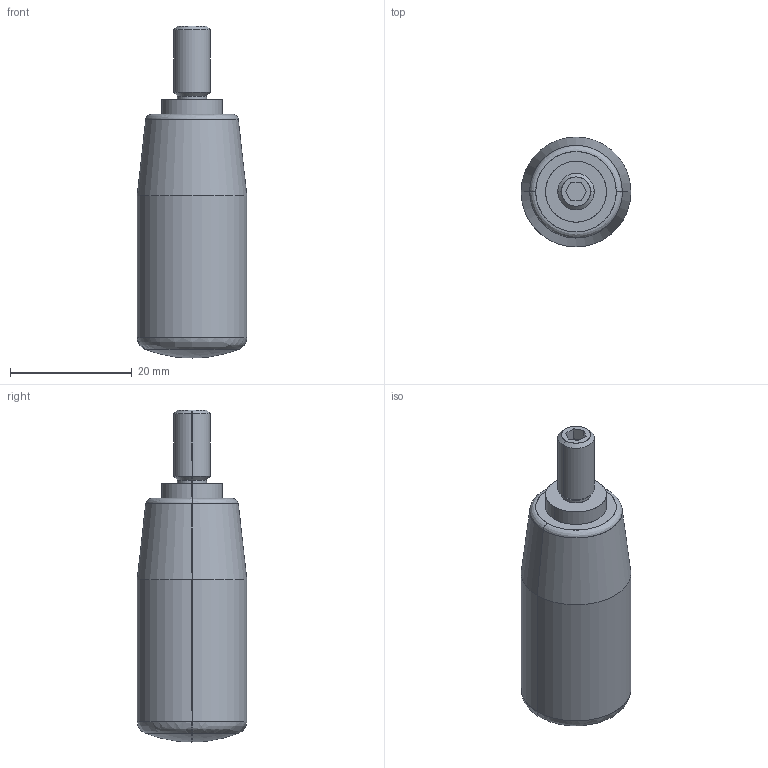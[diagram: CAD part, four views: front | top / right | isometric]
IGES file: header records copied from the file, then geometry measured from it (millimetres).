
Start section: SolidWorks IGES file using analytic representation for surfaces
Global section: file name: C:\HEMSIDA\cad\SLDPRT_2010\gn598\\gn598_40_m6.igs; native system: SolidWorks 2010; preprocessor: SolidWorks 2010; author: Administrator; date: 101001.152001; units: millimetre
Bounding box: 18 x 18 x 54.5 mm (x, y, z)
Surface area: 2829.6 mm2 (no closed solid volume)
Topology: 0 solids, 0 shells, 30 faces, 276 edges, 274 vertices
Faces by surface type: bspline 16, revolution 14
